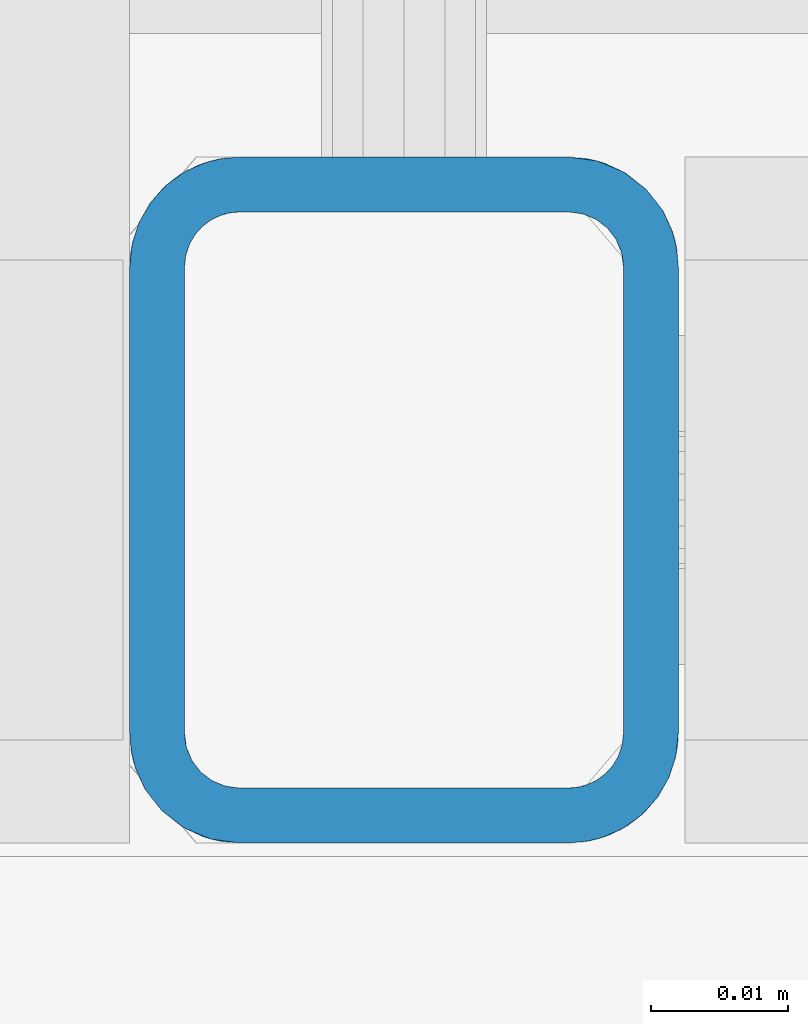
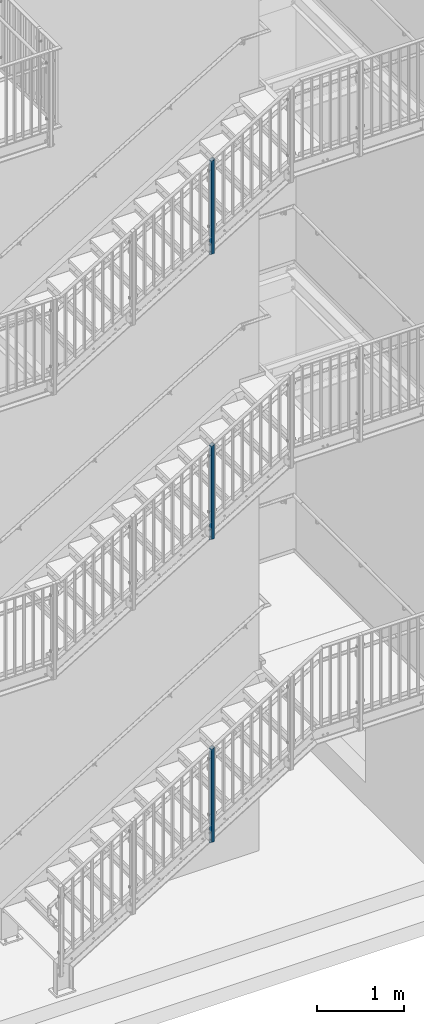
# One storey, part 12 of 410: 3 columns, 24 openings.
"""IFC2X3 building model written with IfcOpenShell, lengths in millimetres."""

from ifc_helpers import new_model, entity, si_unit, converted_unit, frame, frame_2d, origin, origin_with_axes, origin_2d, place, context, project, spatial, hollow_rectangle, circle, extrude, clip, halfspace, material, element, save


model = new_model("IFC2X3")

# Units and contexts
model_context = context("Model", 3, precision=1e-09, world=origin_with_axes())
ifc_project = project(units=[si_unit("LENGTHUNIT", "METRE", prefix="MILLI"), si_unit("AREAUNIT", "SQUARE_METRE"), si_unit("VOLUMEUNIT", "CUBIC_METRE"), converted_unit("PLANEANGLEUNIT", "DEGREE", entity("IfcPlaneAngleMeasure", 0.01745329), si_unit("PLANEANGLEUNIT", "RADIAN"), dimensions=[0, 0, 0, 0, 0, 0, 0])], contexts=[model_context])

# Site, building, storey
site_placement = place(None, origin_with_axes())
site = spatial("IfcSite", under=ifc_project, at=site_placement, Name="mKR Teilneubau & Sanierung BA1 - Ostfildern", CompositionType="ELEMENT")
building_placement = place(site_placement, origin_with_axes())
building = spatial("IfcBuilding", under=site, at=building_placement, Name="Struktur 1", CompositionType="ELEMENT")
storey_placement = place(building_placement, origin_with_axes())
storey = spatial("IfcBuildingStorey", under=building, at=storey_placement, Name="Default Storey", CompositionType="ELEMENT", Elevation=0.0)

# Column, openings
ifc_material = material(Name="S235JR")
column_1_placement = place(None, frame((315.001468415, 15405.999999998, -1872.326046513), z_axis=(0.0, 0.0, 1.0), x_axis=(-1.0, 0.0, 0.0)))
column_1 = element("IfcColumn", 1, at=column_1_placement, inside=storey, material=ifc_material, Name="-", ObjectType="-", context=model_context, shape_type="Clipping", body=[
    clip(clip(extrude(hollow_rectangle(XDim=40.0, YDim=50.0, WallThickness=4.0, InnerFilletRadius=4.0, OuterFilletRadius=8.0, at=origin_2d()), origin(), (0.0, 0.0, -1.0), 1497.682689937), halfspace(frame((315.001468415, 11880.039196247, 6907.91994024), z_axis=(0.0, -0.573576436, 0.819152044), x_axis=(1.0, 0.0, 0.0)), True)), halfspace(frame((-643.621616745, 15405.999999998, 317.512317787), z_axis=(-0.524817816, 0.0, -0.851214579), x_axis=(0.0, -1.0, 0.0)), True)),
])
opening_1_placement = place(column_1_placement, frame((-20.5, 0.0, -1318.079468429), z_axis=(1.0, 0.0, 0.0), x_axis=(0.0, 1.0, 0.0)))
element("IfcOpeningElement", 2, at=opening_1_placement, cuts=column_1, ObjectType="Opening", context=model_context, shape_type="SweptSolid", body=[
    extrude(circle(Radius=7.001, at=frame_2d((0.0, 50.0), x_axis=(1.0, 0.0))), origin(), (0.0, 0.0, 1.0), 5.0),
])
opening_2_placement = place(column_1_placement, frame((-20.5, 0.0, -1318.079468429), z_axis=(1.0, 0.0, 0.0), x_axis=(0.0, 1.0, 0.0)))
element("IfcOpeningElement", 3, at=opening_2_placement, cuts=column_1, ObjectType="Opening", context=model_context, shape_type="SweptSolid", body=[
    extrude(circle(Radius=7.001, at=frame_2d((0.0, -50.0), x_axis=(1.0, 0.0))), origin(), (0.0, 0.0, 1.0), 5.0),
])
opening_3_placement = place(column_1_placement, frame((15.5, 0.0, -1318.079468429), z_axis=(1.0, 0.0, 0.0), x_axis=(0.0, 1.0, 0.0)))
element("IfcOpeningElement", 4, at=opening_3_placement, cuts=column_1, ObjectType="Opening", context=model_context, shape_type="SweptSolid", body=[
    extrude(circle(Radius=7.001, at=frame_2d((0.0, 50.0), x_axis=(1.0, 0.0))), origin(), (0.0, 0.0, 1.0), 5.0),
])
opening_4_placement = place(column_1_placement, frame((15.5, 0.0, -1318.079468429), z_axis=(1.0, 0.0, 0.0), x_axis=(0.0, 1.0, 0.0)))
element("IfcOpeningElement", 5, at=opening_4_placement, cuts=column_1, ObjectType="Opening", context=model_context, shape_type="SweptSolid", body=[
    extrude(circle(Radius=7.001, at=frame_2d((0.0, -50.0), x_axis=(1.0, 0.0))), origin(), (0.0, 0.0, 1.0), 5.0),
])
opening_5_placement = place(column_1_placement, frame((15.5, -6.501, -1011.982665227), z_axis=(-1.0, 0.0, 0.0), x_axis=(0.0, -1.0, 0.0)))
element("IfcOpeningElement", 6, at=opening_5_placement, cuts=column_1, ObjectType="Opening", context=model_context, shape_type="SweptSolid", body=[
    extrude(circle(Radius=6.501, at=frame_2d((-6.501, 0.0), x_axis=(1.0, 0.0))), origin(), (0.0, 0.0, -1.0), 5.0),
])
opening_6_placement = place(column_1_placement, frame((15.5, -6.501, -226.982665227), z_axis=(-1.0, 0.0, 0.0), x_axis=(0.0, -1.0, 0.0)))
element("IfcOpeningElement", 7, at=opening_6_placement, cuts=column_1, ObjectType="Opening", context=model_context, shape_type="SweptSolid", body=[
    extrude(circle(Radius=6.501, at=frame_2d((-6.501, 0.0), x_axis=(1.0, 0.0))), origin(), (0.0, 0.0, -1.0), 5.0),
])
opening_7_placement = place(column_1_placement, frame((-20.5, -6.501, -1011.982665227), z_axis=(-1.0, 0.0, 0.0), x_axis=(0.0, -1.0, 0.0)))
element("IfcOpeningElement", 8, at=opening_7_placement, cuts=column_1, ObjectType="Opening", context=model_context, shape_type="SweptSolid", body=[
    extrude(circle(Radius=6.501, at=frame_2d((-6.501, 0.0), x_axis=(1.0, 0.0))), origin(), (0.0, 0.0, -1.0), 5.0),
])
opening_8_placement = place(column_1_placement, frame((-20.5, -6.501, -226.982665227), z_axis=(-1.0, 0.0, 0.0), x_axis=(0.0, -1.0, 0.0)))
element("IfcOpeningElement", 9, at=opening_8_placement, cuts=column_1, ObjectType="Opening", context=model_context, shape_type="SweptSolid", body=[
    extrude(circle(Radius=6.501, at=frame_2d((-6.501, 0.0), x_axis=(1.0, 0.0))), origin(), (0.0, 0.0, -1.0), 5.0),
])

column_2_placement = place(None, frame((315.001468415, 15405.999999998, 2384.041280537), z_axis=(0.0, 0.0, 1.0), x_axis=(-1.0, 0.0, 0.0)))
column_2 = element("IfcColumn", 10, at=column_2_placement, inside=storey, material=ifc_material, Name="-", ObjectType="-", context=model_context, shape_type="Clipping", body=[
    clip(clip(extrude(hollow_rectangle(XDim=40.0, YDim=50.0, WallThickness=4.0, InnerFilletRadius=4.0, OuterFilletRadius=8.0, at=origin_2d()), origin(), (0.0, 0.0, -1.0), 1495.505797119), halfspace(frame((315.001468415, 9879.177906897, 5509.078675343), z_axis=(0.0, -0.573576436, 0.819152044), x_axis=(1.0, 0.0, 0.0)), True)), halfspace(frame((1248.60118136, 15405.999999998, -827.263759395), z_axis=(-0.51430666, 0.0, -0.857606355), x_axis=(0.0, -1.0, 0.0)), True)),
])
opening_9_placement = place(column_2_placement, frame((-20.5, 0.0, -1315.902575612), z_axis=(1.0, 0.0, 0.0), x_axis=(0.0, 1.0, 0.0)))
element("IfcOpeningElement", 11, at=opening_9_placement, cuts=column_2, ObjectType="Opening", context=model_context, shape_type="SweptSolid", body=[
    extrude(circle(Radius=7.001, at=frame_2d((0.0, 50.0), x_axis=(1.0, 0.0))), origin(), (0.0, 0.0, 1.0), 5.0),
])
opening_10_placement = place(column_2_placement, frame((-20.5, 0.0, -1315.902575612), z_axis=(1.0, 0.0, 0.0), x_axis=(0.0, 1.0, 0.0)))
element("IfcOpeningElement", 12, at=opening_10_placement, cuts=column_2, ObjectType="Opening", context=model_context, shape_type="SweptSolid", body=[
    extrude(circle(Radius=7.001, at=frame_2d((0.0, -50.0), x_axis=(1.0, 0.0))), origin(), (0.0, 0.0, 1.0), 5.0),
])
opening_11_placement = place(column_2_placement, frame((15.5, 0.0, -1315.902575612), z_axis=(1.0, 0.0, 0.0), x_axis=(0.0, 1.0, 0.0)))
element("IfcOpeningElement", 13, at=opening_11_placement, cuts=column_2, ObjectType="Opening", context=model_context, shape_type="SweptSolid", body=[
    extrude(circle(Radius=7.001, at=frame_2d((0.0, 50.0), x_axis=(1.0, 0.0))), origin(), (0.0, 0.0, 1.0), 5.0),
])
opening_12_placement = place(column_2_placement, frame((15.5, 0.0, -1315.902575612), z_axis=(1.0, 0.0, 0.0), x_axis=(0.0, 1.0, 0.0)))
element("IfcOpeningElement", 14, at=opening_12_placement, cuts=column_2, ObjectType="Opening", context=model_context, shape_type="SweptSolid", body=[
    extrude(circle(Radius=7.001, at=frame_2d((0.0, -50.0), x_axis=(1.0, 0.0))), origin(), (0.0, 0.0, 1.0), 5.0),
])
opening_13_placement = place(column_2_placement, frame((15.5, -6.501, -1011.483440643), z_axis=(-1.0, 0.0, 0.0), x_axis=(0.0, -1.0, 0.0)))
element("IfcOpeningElement", 15, at=opening_13_placement, cuts=column_2, ObjectType="Opening", context=model_context, shape_type="SweptSolid", body=[
    extrude(circle(Radius=6.501, at=frame_2d((-6.501, 0.0), x_axis=(1.0, 0.0))), origin(), (0.0, 0.0, -1.0), 5.0),
])
opening_14_placement = place(column_2_placement, frame((15.5, -6.501, -226.483440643), z_axis=(-1.0, 0.0, 0.0), x_axis=(0.0, -1.0, 0.0)))
element("IfcOpeningElement", 16, at=opening_14_placement, cuts=column_2, ObjectType="Opening", context=model_context, shape_type="SweptSolid", body=[
    extrude(circle(Radius=6.501, at=frame_2d((-6.501, 0.0), x_axis=(1.0, 0.0))), origin(), (0.0, 0.0, -1.0), 5.0),
])
opening_15_placement = place(column_2_placement, frame((-20.5, -6.501, -1011.483440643), z_axis=(-1.0, 0.0, 0.0), x_axis=(0.0, -1.0, 0.0)))
element("IfcOpeningElement", 17, at=opening_15_placement, cuts=column_2, ObjectType="Opening", context=model_context, shape_type="SweptSolid", body=[
    extrude(circle(Radius=6.501, at=frame_2d((-6.501, 0.0), x_axis=(1.0, 0.0))), origin(), (0.0, 0.0, -1.0), 5.0),
])
opening_16_placement = place(column_2_placement, frame((-20.5, -6.501, -226.483440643), z_axis=(-1.0, 0.0, 0.0), x_axis=(0.0, -1.0, 0.0)))
element("IfcOpeningElement", 18, at=opening_16_placement, cuts=column_2, ObjectType="Opening", context=model_context, shape_type="SweptSolid", body=[
    extrude(circle(Radius=6.501, at=frame_2d((-6.501, 0.0), x_axis=(1.0, 0.0))), origin(), (0.0, 0.0, -1.0), 5.0),
])

column_3_placement = place(None, frame((315.001468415, 15405.999999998, 6391.787962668), z_axis=(0.0, 0.0, 1.0), x_axis=(-1.0, 0.0, 0.0)))
column_3 = element("IfcColumn", 19, at=column_3_placement, inside=storey, material=ifc_material, Name="-", ObjectType="-", context=model_context, shape_type="Clipping", body=[
    clip(clip(extrude(hollow_rectangle(XDim=40.0, YDim=50.0, WallThickness=4.0, InnerFilletRadius=4.0, OuterFilletRadius=8.0, at=origin_2d()), origin(), (0.0, 0.0, -1.0), 1495.987494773), halfspace(frame((315.001468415, 7996.379239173, 4190.247157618), z_axis=(0.0, -0.573576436, 0.819152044), x_axis=(1.0, 0.0, 0.0)), True)), halfspace(frame((3023.6019808, 15405.999999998, -1903.249970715), z_axis=(-0.516664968, 0.0, -0.856187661), x_axis=(0.0, -1.0, 0.0)), True)),
])
opening_17_placement = place(column_3_placement, frame((-20.5, 0.0, -1316.384273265), z_axis=(1.0, 0.0, 0.0), x_axis=(0.0, 1.0, 0.0)))
element("IfcOpeningElement", 20, at=opening_17_placement, cuts=column_3, ObjectType="Opening", context=model_context, shape_type="SweptSolid", body=[
    extrude(circle(Radius=7.001, at=frame_2d((0.0, 50.0), x_axis=(1.0, 0.0))), origin(), (0.0, 0.0, 1.0), 5.0),
])
opening_18_placement = place(column_3_placement, frame((-20.5, 0.0, -1316.384273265), z_axis=(1.0, 0.0, 0.0), x_axis=(0.0, 1.0, 0.0)))
element("IfcOpeningElement", 21, at=opening_18_placement, cuts=column_3, ObjectType="Opening", context=model_context, shape_type="SweptSolid", body=[
    extrude(circle(Radius=7.001, at=frame_2d((0.0, -50.0), x_axis=(1.0, 0.0))), origin(), (0.0, 0.0, 1.0), 5.0),
])
opening_19_placement = place(column_3_placement, frame((15.5, 0.0, -1316.384273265), z_axis=(1.0, 0.0, 0.0), x_axis=(0.0, 1.0, 0.0)))
element("IfcOpeningElement", 22, at=opening_19_placement, cuts=column_3, ObjectType="Opening", context=model_context, shape_type="SweptSolid", body=[
    extrude(circle(Radius=7.001, at=frame_2d((0.0, 50.0), x_axis=(1.0, 0.0))), origin(), (0.0, 0.0, 1.0), 5.0),
])
opening_20_placement = place(column_3_placement, frame((15.5, 0.0, -1316.384273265), z_axis=(1.0, 0.0, 0.0), x_axis=(0.0, 1.0, 0.0)))
element("IfcOpeningElement", 23, at=opening_20_placement, cuts=column_3, ObjectType="Opening", context=model_context, shape_type="SweptSolid", body=[
    extrude(circle(Radius=7.001, at=frame_2d((0.0, -50.0), x_axis=(1.0, 0.0))), origin(), (0.0, 0.0, 1.0), 5.0),
])
opening_21_placement = place(column_3_placement, frame((15.5, -6.501, -1011.593602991), z_axis=(-1.0, 0.0, 0.0), x_axis=(0.0, -1.0, 0.0)))
element("IfcOpeningElement", 24, at=opening_21_placement, cuts=column_3, ObjectType="Opening", context=model_context, shape_type="SweptSolid", body=[
    extrude(circle(Radius=6.501, at=frame_2d((-6.501, 0.0), x_axis=(1.0, 0.0))), origin(), (0.0, 0.0, -1.0), 5.0),
])
opening_22_placement = place(column_3_placement, frame((15.5, -6.501, -226.593602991), z_axis=(-1.0, 0.0, 0.0), x_axis=(0.0, -1.0, 0.0)))
element("IfcOpeningElement", 25, at=opening_22_placement, cuts=column_3, ObjectType="Opening", context=model_context, shape_type="SweptSolid", body=[
    extrude(circle(Radius=6.501, at=frame_2d((-6.501, 0.0), x_axis=(1.0, 0.0))), origin(), (0.0, 0.0, -1.0), 5.0),
])
opening_23_placement = place(column_3_placement, frame((-20.5, -6.501, -1011.593602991), z_axis=(-1.0, 0.0, 0.0), x_axis=(0.0, -1.0, 0.0)))
element("IfcOpeningElement", 26, at=opening_23_placement, cuts=column_3, ObjectType="Opening", context=model_context, shape_type="SweptSolid", body=[
    extrude(circle(Radius=6.501, at=frame_2d((-6.501, 0.0), x_axis=(1.0, 0.0))), origin(), (0.0, 0.0, -1.0), 5.0),
])
opening_24_placement = place(column_3_placement, frame((-20.5, -6.501, -226.593602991), z_axis=(-1.0, 0.0, 0.0), x_axis=(0.0, -1.0, 0.0)))
element("IfcOpeningElement", 27, at=opening_24_placement, cuts=column_3, ObjectType="Opening", context=model_context, shape_type="SweptSolid", body=[
    extrude(circle(Radius=6.501, at=frame_2d((-6.501, 0.0), x_axis=(1.0, 0.0))), origin(), (0.0, 0.0, -1.0), 5.0),
])

save(model, "model.ifc")
